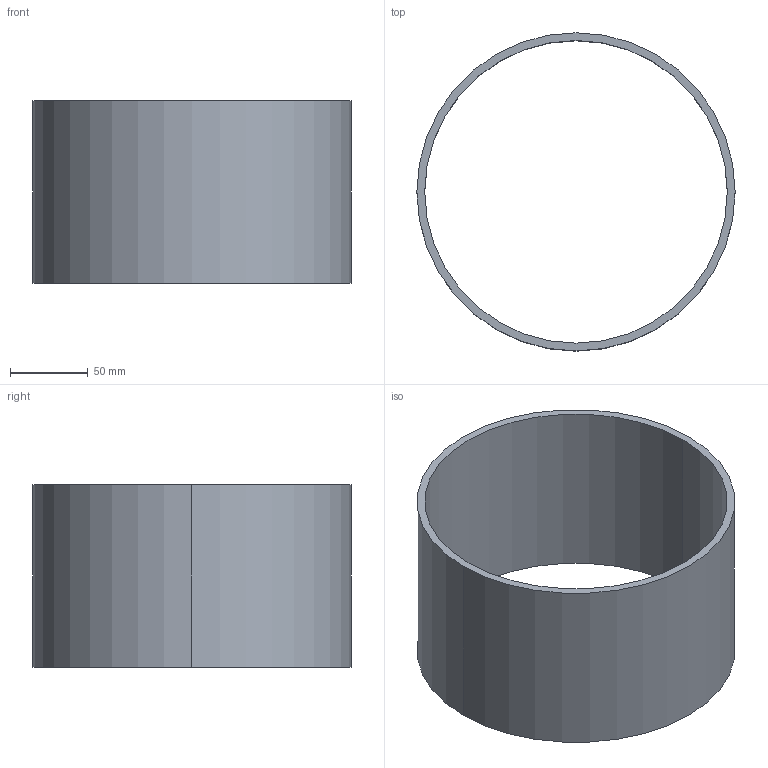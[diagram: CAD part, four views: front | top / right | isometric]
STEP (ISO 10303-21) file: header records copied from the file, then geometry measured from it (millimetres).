
FILE_DESCRIPTION(('CATIA V5 STEP Exchange'),'2;1');
FILE_NAME('C:\_Andres\UNIVERSIDAD\IQS\ASIGNATURAS\DAO\EXF\EXF-15161c\1original\Aranda_Gil_Ej07-tabla_v2.stp','2016-03-04T21:16:33+00:00',('none'),('none'),'CATIA Version 5 Release 20 SP 1 (IN-10)','CATIA V5 STEP AP203','none');
FILE_SCHEMA(('CONFIG_CONTROL_DESIGN'));
Length unit declared in the file: millimetre
Products named in the file (1): Aranda_Gil_Ej07-tabla_v2
Bounding box: 204 x 204 x 117 mm (x, y, z)
Volume: 365728.5 mm3; surface area: 152543.2 mm2
Topology: 1 solids, 1 shells, 6 faces, 13 edges, 10 vertices
Faces by surface type: cylinder 4, plane 2
Entity records: 208 total; most frequent: CARTESIAN_POINT 29, ORIENTED_EDGE 24, DIRECTION 23, AXIS2_PLACEMENT_3D 14, EDGE_CURVE 12, CIRCLE 8, EDGE_LOOP 8, VERTEX_POINT 8
